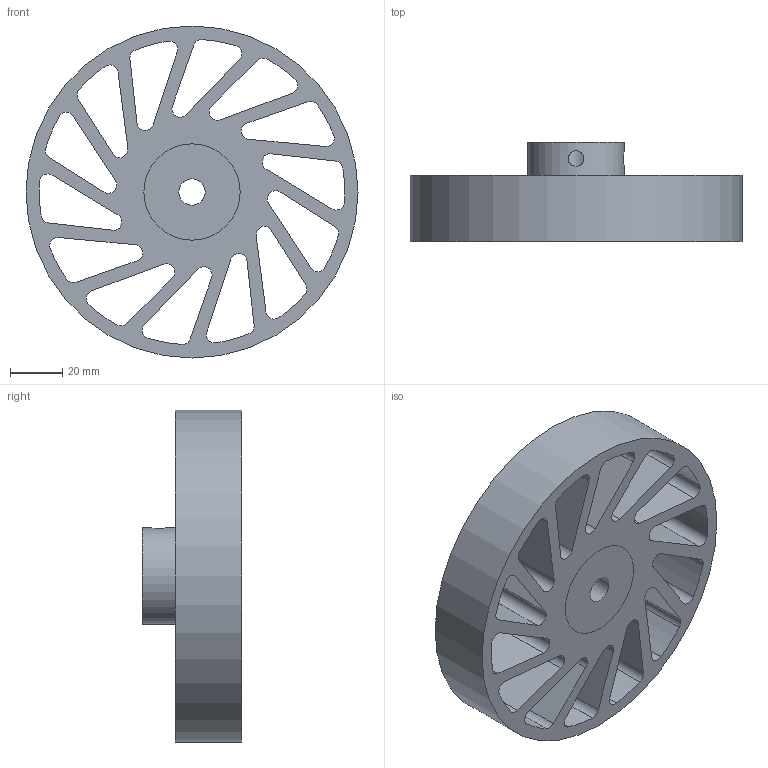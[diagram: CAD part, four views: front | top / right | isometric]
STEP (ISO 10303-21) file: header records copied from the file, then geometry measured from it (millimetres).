
FILE_DESCRIPTION(/* description */ (''),/* implementation_level */ '2;1');
FILE_NAME(/* name */ 'NCWM-440-XXX-YYY.stp',/* time_stamp */ '2023-02-02T16:31:58-06:00',/* author */ ('AG'),/* organization */ ('Meridian Laboratory'),/* preprocessor_version */ 'ST-DEVELOPER v18.1',/* originating_system */ 'Autodesk Inventor 2022',/* authorisation */ '');
FILE_SCHEMA (('AUTOMOTIVE_DESIGN { 1 0 10303 214 3 1 1 }'));
Length unit declared in the file: millimetre
Products named in the file (1): NCWM-440
Bounding box: 127 x 38.1 x 127 mm (x, y, z)
Volume: 190172.1 mm3; surface area: 63883.5 mm2
Topology: 2 solids, 2 shells, 94 faces, 276 edges, 186 vertices
Faces by surface type: cylinder 62, plane 32
Full cylindrical faces by diameter (mm): 6 x2, 10.025 x1, 36.83 x2, 127 x1
Entity records: 3528 total; most frequent: CARTESIAN_POINT 697, DIRECTION 576, ORIENTED_EDGE 552, EDGE_CURVE 276, AXIS2_PLACEMENT_3D 215, VERTEX_POINT 186, LINE 146, VECTOR 146
